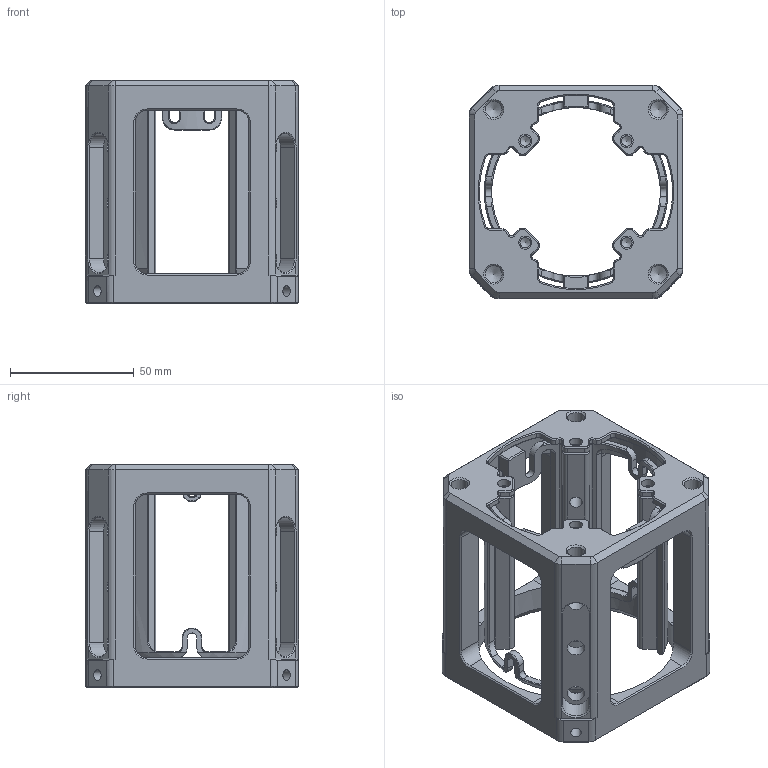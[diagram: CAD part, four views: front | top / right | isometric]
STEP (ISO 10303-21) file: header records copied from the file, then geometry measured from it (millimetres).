
FILE_DESCRIPTION (( 'STEP AP214' ), '1' );
FILE_NAME ('D80俋嘀-D74囀傍.STEP', '2026-05-07T03:32:51', ( '' ), ( '' ), 'SwSTEP 2.0', 'SolidWorks 2021', '' );
FILE_SCHEMA (( 'AUTOMOTIVE_DESIGN' ));
Length unit declared in the file: millimetre
Products named in the file (4): 111420030CA; D80俋嘀-D74囀傍; 111420030CB; 111340015BA
Assembly tree (3 placements, depth 3):
  D80俋嘀-D74囀傍
    111420030CB
      111420030CA
    111340015BA
Bounding box: 86 x 86 x 90 mm (x, y, z)
Volume: 152937.1 mm3; surface area: 71125 mm2
Topology: 2 solids, 2 shells, 724 faces, 1807 edges, 1084 vertices
Faces by surface type: plane 273, cone 205, cylinder 200, bspline 46
Full cylindrical faces by diameter (mm): 4.2 x8, 5 x12, 5.3 x4, 6.8 x4, 7 x12, 74 x1, 80 x1
Entity records: 35432 total; most frequent: CARTESIAN_POINT 18537, ORIENTED_EDGE 3466, DIRECTION 3244, EDGE_CURVE 1733, AXIS2_PLACEMENT_3D 1172, VERTEX_POINT 1067, VECTOR 900, LINE 900
